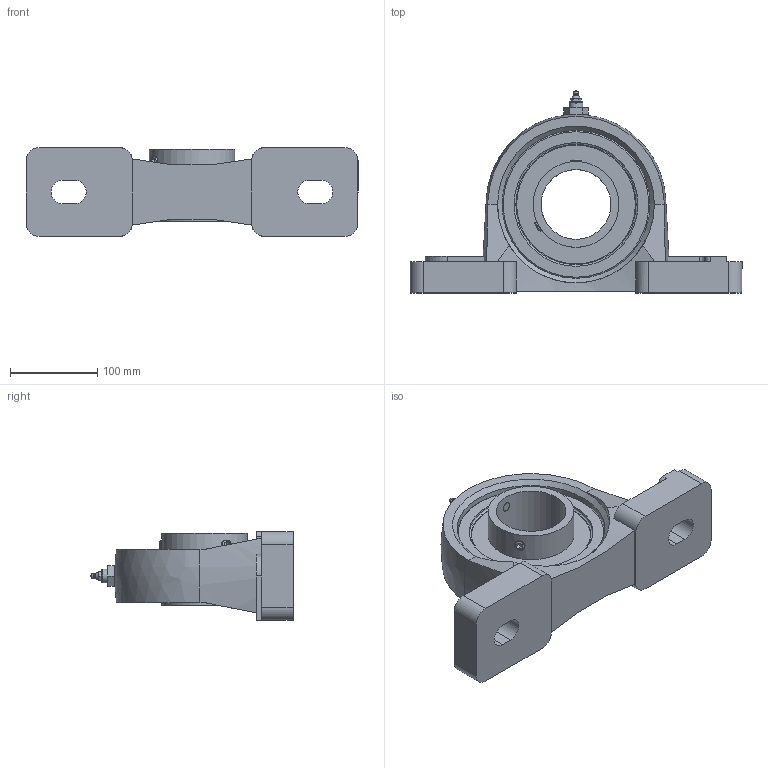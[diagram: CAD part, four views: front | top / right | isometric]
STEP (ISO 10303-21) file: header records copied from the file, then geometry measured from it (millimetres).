
FILE_DESCRIPTION((''),'2;1');
FILE_NAME('\\Ts-tgl068\J-Cad-D-BASE\00.3DCADデータ作成フォルダ\01.ピロー形\UCEP200\UCEP216.stp','2014-04-18T09:42:54',('btec_1106_2'),(''),'Autodesk Inventor 2012','Autodesk Inventor 2012','');
FILE_SCHEMA(('AUTOMOTIVE_DESIGN { 1 0 10303 214 1 1 1 1 }'));
Length unit declared in the file: millimetre
Products named in the file (7): UCEP200; EP217; AU110-4; EC216; シリーズUC [番手=216 ul]; M16X2; G1
Assembly tree (6 placements, depth 2):
  UCEP200
    EP217
    AU110-4
    EC216
    シリーズUC [番手=216 ul]
    M16X2
    G1
Bounding box: 381 x 231.99 x 102 mm (x, y, z)
Volume: 2398564 mm3; surface area: 298169.9 mm2
Topology: 6 solids, 6 shells, 173 faces, 429 edges, 276 vertices
Faces by surface type: plane 91, cylinder 48, cone 21, torus 8, sphere 4, bspline 1
Full cylindrical faces by diameter (mm): 4 x1, 8 x1, 8.566 x1, 9.728 x1, 12 x2, 13.835 x2, 16 x1, 80 x1, 98.5 x2, 142 x2, 170 x2
Entity records: 5391 total; most frequent: CARTESIAN_POINT 1212, DIRECTION 848, ORIENTED_EDGE 756, EDGE_CURVE 378, AXIS2_PLACEMENT_3D 331, VERTEX_POINT 262, EDGE_LOOP 234, VECTOR 186
